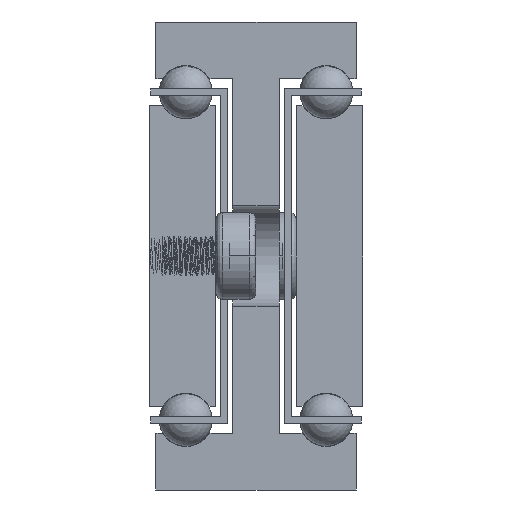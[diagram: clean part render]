
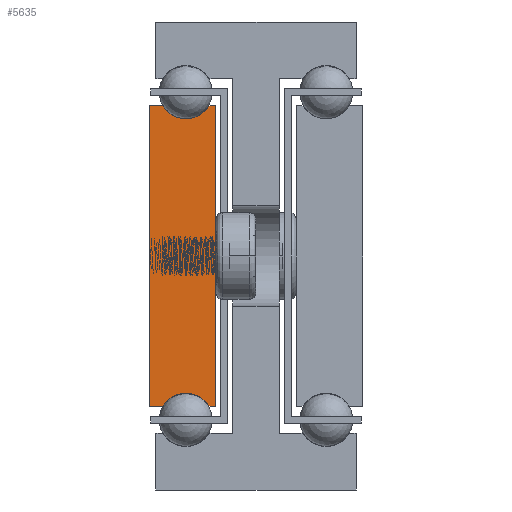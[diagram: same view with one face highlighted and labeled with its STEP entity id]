
A CAD part, front view. The second image highlights one B-rep face of the part: STEP entity #5635.
In plain terms, the highlighted planar face has unit normal (0, -1, 0).
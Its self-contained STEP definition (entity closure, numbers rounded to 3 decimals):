
#869=CIRCLE('',#6035,4.);
#871=CIRCLE('',#6041,4.);
#1289=FACE_OUTER_BOUND('',#1653,.T.);
#1653=EDGE_LOOP('',(#4454,#4455,#4456,#4457,#4458,#4459,#4460,#4461));
#2192=LINE('',#95885,#2404);
#2195=LINE('',#95891,#2407);
#2199=LINE('',#95903,#2411);
#2202=LINE('',#95909,#2414);
#2205=LINE('',#95915,#2417);
#2209=LINE('',#95925,#2421);
#2404=VECTOR('',#6714,1.);
#2407=VECTOR('',#6719,1.);
#2411=VECTOR('',#6731,1.);
#2414=VECTOR('',#6736,1.);
#2417=VECTOR('',#6741,1.);
#2421=VECTOR('',#6753,1.);
#2704=VERTEX_POINT('',#95882);
#2705=VERTEX_POINT('',#95884);
#2707=VERTEX_POINT('',#95890);
#2709=VERTEX_POINT('',#95896);
#2711=VERTEX_POINT('',#95902);
#2713=VERTEX_POINT('',#95908);
#2715=VERTEX_POINT('',#95914);
#2717=VERTEX_POINT('',#95920);
#3414=EDGE_CURVE('',#2705,#2704,#2192,.T.);
#3417=EDGE_CURVE('',#2707,#2705,#2195,.T.);
#3420=EDGE_CURVE('',#2709,#2707,#869,.T.);
#3423=EDGE_CURVE('',#2711,#2709,#2199,.T.);
#3426=EDGE_CURVE('',#2713,#2711,#2202,.T.);
#3429=EDGE_CURVE('',#2715,#2713,#2205,.T.);
#3432=EDGE_CURVE('',#2717,#2715,#871,.T.);
#3435=EDGE_CURVE('',#2704,#2717,#2209,.T.);
#4454=ORIENTED_EDGE('',*,*,#3435,.T.);
#4455=ORIENTED_EDGE('',*,*,#3432,.T.);
#4456=ORIENTED_EDGE('',*,*,#3429,.T.);
#4457=ORIENTED_EDGE('',*,*,#3426,.T.);
#4458=ORIENTED_EDGE('',*,*,#3423,.T.);
#4459=ORIENTED_EDGE('',*,*,#3420,.T.);
#4460=ORIENTED_EDGE('',*,*,#3417,.T.);
#4461=ORIENTED_EDGE('',*,*,#3414,.T.);
#5489=PLANE('',#6044);
#5635=ADVANCED_FACE('',(#1289),#5489,.T.);
#6035=AXIS2_PLACEMENT_3D('',#95897,#6725,#6726);
#6041=AXIS2_PLACEMENT_3D('',#95921,#6747,#6748);
#6044=AXIS2_PLACEMENT_3D('',#95927,#6756,#6757);
#6714=DIRECTION('',(0.,0.,-1.));
#6719=DIRECTION('',(-1.,0.,0.));
#6725=DIRECTION('center_axis',(0.,1.,0.));
#6726=DIRECTION('ref_axis',(-0.866,0.,-0.5));
#6731=DIRECTION('',(-1.,0.,0.));
#6736=DIRECTION('',(0.,0.,1.));
#6741=DIRECTION('',(1.,0.,0.));
#6747=DIRECTION('center_axis',(0.,1.,0.));
#6748=DIRECTION('ref_axis',(0.866,0.,0.5));
#6753=DIRECTION('',(1.,0.,0.));
#6756=DIRECTION('center_axis',(0.,-1.,0.));
#6757=DIRECTION('ref_axis',(1.,0.,0.));
#95882=CARTESIAN_POINT('',(-948.465,-194.108,-57.5));
#95884=CARTESIAN_POINT('',(-948.465,-194.108,-12.5));
#95885=CARTESIAN_POINT('',(-948.465,-194.108,-57.5));
#95890=CARTESIAN_POINT('',(-946.429,-194.108,-12.5));
#95891=CARTESIAN_POINT('',(-948.465,-194.108,-12.5));
#95896=CARTESIAN_POINT('',(-939.501,-194.108,-12.5));
#95897=CARTESIAN_POINT('Origin',(-942.965,-194.108,-10.5));
#95902=CARTESIAN_POINT('',(-938.465,-194.108,-12.5));
#95903=CARTESIAN_POINT('',(-939.501,-194.108,-12.5));
#95908=CARTESIAN_POINT('',(-938.465,-194.108,-57.5));
#95909=CARTESIAN_POINT('',(-938.465,-194.108,-12.5));
#95914=CARTESIAN_POINT('',(-939.501,-194.108,-57.5));
#95915=CARTESIAN_POINT('',(-938.465,-194.108,-57.5));
#95920=CARTESIAN_POINT('',(-946.429,-194.108,-57.5));
#95921=CARTESIAN_POINT('Origin',(-942.965,-194.108,-59.5));
#95925=CARTESIAN_POINT('',(-946.429,-194.108,-57.5));
#95927=CARTESIAN_POINT('Origin',(-943.471,-194.108,-35.));
